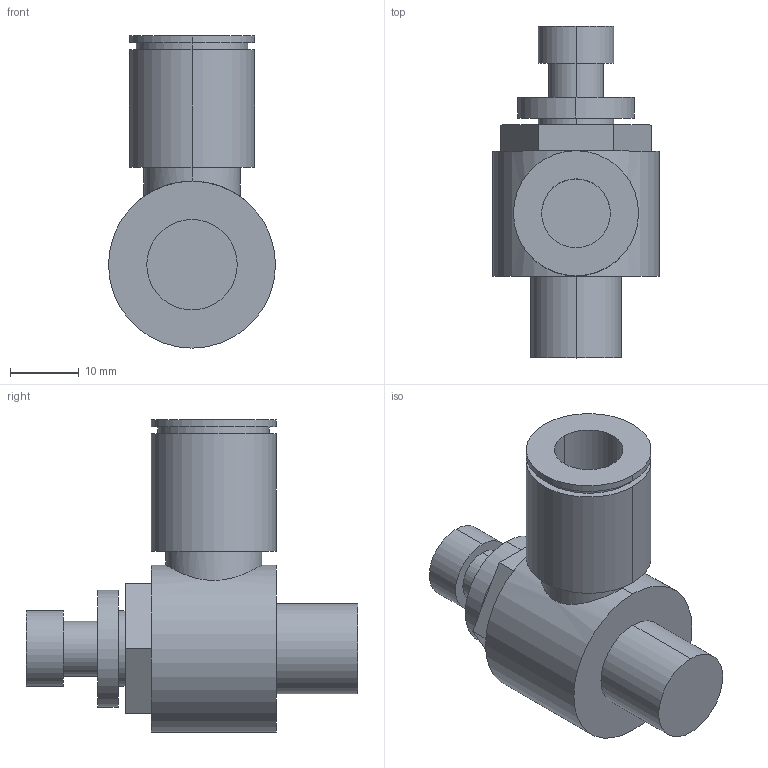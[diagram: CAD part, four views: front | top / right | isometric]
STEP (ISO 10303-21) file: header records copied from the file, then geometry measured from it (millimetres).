
FILE_DESCRIPTION( ( '' ), '1' );
FILE_NAME( 'G:/SMC狟婥/AS3201F-02-10SA.stp', '2023-03-07T03:50:46', ( '' ), ( '' ), ' ', ' ', ' ' );
FILE_SCHEMA( ( 'CONFIG_CONTROL_DESIGN' ) );
Length unit declared in the file: millimetre
Products named in the file (1): 1
Bounding box: 24.3 x 48.3 x 45.45 mm (x, y, z)
Volume: 16454.7 mm3; surface area: 6116.5 mm2
Topology: 1 solids, 1 shells, 41 faces, 86 edges, 57 vertices
Faces by surface type: cylinder 22, plane 19
Entity records: 1219 total; most frequent: CARTESIAN_POINT 252, DIRECTION 209, ORIENTED_EDGE 172, EDGE_CURVE 86, AXIS2_PLACEMENT_3D 84, VERTEX_POINT 57, EDGE_LOOP 51, CIRCLE 42
